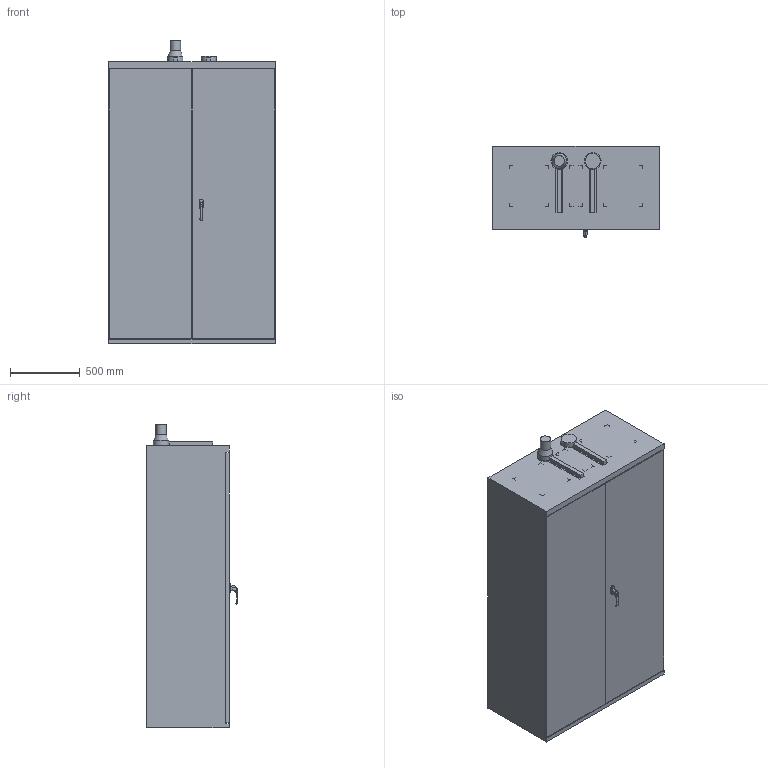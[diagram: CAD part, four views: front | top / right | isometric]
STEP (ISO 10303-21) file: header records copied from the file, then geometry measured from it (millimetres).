
FILE_DESCRIPTION(/* description */ ('Unknown'),/* implementation_level */ '2;1');
FILE_NAME(/* name */ '73-201260_VDK',/* time_stamp */ '2019-04-11T11:52:10+02:00',/* author */ ('Unknown'),/* organization */ ('Unknown'),/* preprocessor_version */ 'ST-DEVELOPER v16.7',/* originating_system */ 'DEX',/* authorisation */ $);
FILE_SCHEMA (('AUTOMOTIVE_DESIGN {1 0 10303 214 3 1 1}'));
Length unit declared in the file: millimetre
Products named in the file (1): 73-201260_VDK
Bounding box: 1195 x 657.2 x 2187 mm (x, y, z)
Volume: 1446905874.2 mm3; surface area: 9018299.8 mm2
Topology: 1 solids, 1 shells, 174 faces, 427 edges, 276 vertices
Faces by surface type: plane 137, cylinder 22, bspline 10, sphere 2, torus 2, cone 1
Full cylindrical faces by diameter (mm): 15 x1, 20 x1, 75 x1, 110 x2, 120 x2
Entity records: 6461 total; most frequent: CARTESIAN_POINT 1206, ORIENTED_EDGE 824, DIRECTION 775, EDGE_CURVE 412, LINE 345, VECTOR 345, VERTEX_POINT 273, AXIS2_PLACEMENT_3D 215
